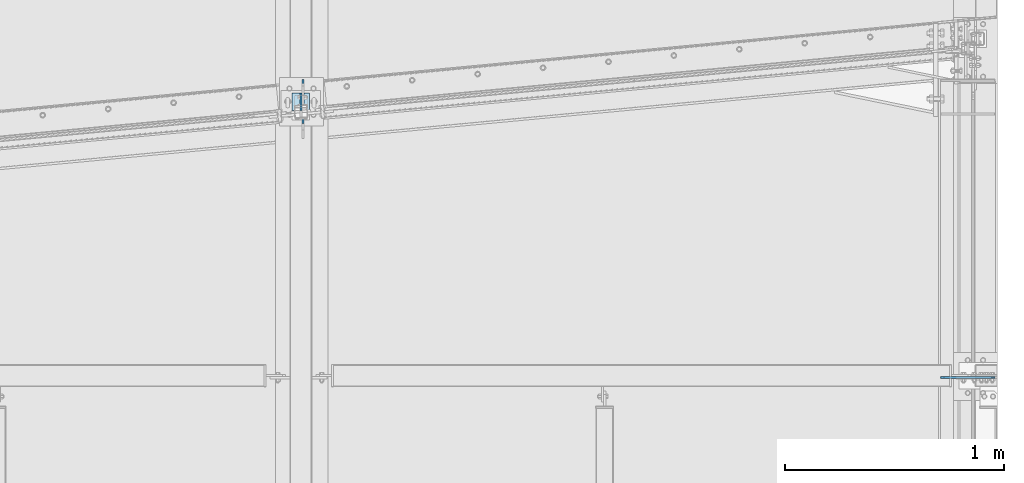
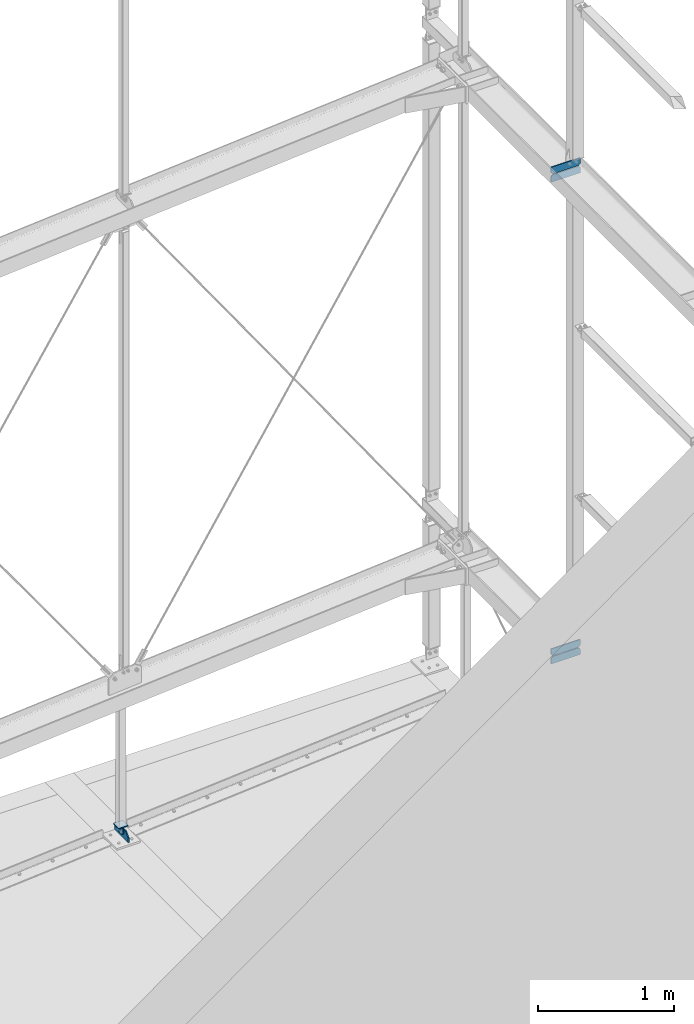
# One storey, part 178 of 271: 7 plates, 4 elements without a shape of their own.
"""IFC2X3 building model written with IfcOpenShell, lengths in millimetres."""

from ifc_helpers import new_model, si_unit, frame, origin_with_axes, place, context, subcontext, project, spatial, polyline, outline, extrude, material, type_object, element, aggregate, save


model = new_model("IFC2X3")

# Units and contexts
model_context = context("Model", 3, precision=1e-05, world=origin_with_axes())
body_context = subcontext(model_context, "Body", "Model", "MODEL_VIEW")
ifc_project = project(units=[si_unit("LENGTHUNIT", "METRE", prefix="MILLI"), si_unit("AREAUNIT", "SQUARE_METRE"), si_unit("VOLUMEUNIT", "CUBIC_METRE"), si_unit("MASSUNIT", "GRAM", prefix="KILO"), si_unit("TIMEUNIT", "SECOND"), si_unit("PLANEANGLEUNIT", "RADIAN"), si_unit("SOLIDANGLEUNIT", "STERADIAN"), si_unit("THERMODYNAMICTEMPERATUREUNIT", "DEGREE_CELSIUS"), si_unit("LUMINOUSINTENSITYUNIT", "LUMEN")], contexts=[model_context])

# Site, building, storey
site_placement = place(None, origin_with_axes())
site = spatial("IfcSite", under=ifc_project, at=site_placement, Name="Undefined", CompositionType="ELEMENT")
building_placement = place(site_placement, origin_with_axes())
building = spatial("IfcBuilding", under=site, at=building_placement, Name="Undefined", CompositionType="ELEMENT")
storey_placement = place(building_placement, origin_with_axes())
storey = spatial("IfcBuildingStorey", under=building, at=storey_placement, Name="Undefined", CompositionType="ELEMENT", Elevation=0.0)

# Assembly, plates
assembly_1_placement = place(storey_placement, origin_with_axes())
assembly_1 = element("IfcElementAssembly", 1, at=assembly_1_placement, inside=storey, AssemblyPlace="NOTDEFINED", PredefinedType="RIGID_FRAME")
ifc_material = material(Name="STEEL/S355JR")
plate_type_1 = type_object("IfcPlateType", Name="BL10*70", PredefinedType="NOTDEFINED")
plate_1_placement = place(assembly_1_placement, frame((9528.37568709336, 4090.32498425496, 54.6500000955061), z_axis=(-1.0, 0.0, 1.38777878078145e-17), x_axis=(0.0, -0.707106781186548, -0.707106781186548)))
plate_1 = element("IfcPlate", 2, at=plate_1_placement, type_object=plate_type_1, material=ifc_material, Name="BLACHA", ObjectType="BL10*70", context=body_context, shape_type="SweptSolid", body=[
    extrude(outline(polyline([(0.0, 0.0), (21.2132034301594, 1.09139364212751e-11), (56.5685424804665, 35.3553390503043), (56.568542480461, 56.5685424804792), (17.6776695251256, 95.4594192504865), (-38.890872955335, 38.8908729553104), (0.0, 0.0)])), frame((0.0, 0.0, -5.0), z_axis=(0.0, 0.0, 1.0), x_axis=(1.0, 0.0, 0.0)), (0.0, 0.0, 1.0), 10.0),
])
plate_type_2 = type_object("IfcPlateType", Name="BL8*80", PredefinedType="NOTDEFINED")
plate_2_placement = place(assembly_1_placement, frame((9568.37568709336, 4090.32498425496, 113.650000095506), z_axis=(0.0, 0.0, -1.0), x_axis=(0.0, -1.0, 0.0)))
plate_2 = element("IfcPlate", 3, at=plate_2_placement, type_object=plate_type_2, material=ifc_material, Name="BLACHA", ObjectType="BL8*80", context=body_context, shape_type="SweptSolid", body=[
    extrude(outline(polyline([(0.0, 0.0), (80.0, 0.0), (80.0, 80.0), (0.0, 80.0), (0.0, 0.0)])), frame((0.0, 0.0, -4.0), z_axis=(0.0, 0.0, 1.0), x_axis=(1.0, 0.0, 0.0)), (0.0, 0.0, 1.0), 8.0),
])
aggregate(assembly_1, [plate_2, plate_1])

# Assembly, plate
assembly_2_placement = place(storey_placement, origin_with_axes())
assembly_2 = element("IfcElementAssembly", 4, at=assembly_2_placement, inside=storey, AssemblyPlace="NOTDEFINED", PredefinedType="RIGID_FRAME")
plate_type_3 = type_object("IfcPlateType", Name="BL10*80", PredefinedType="NOTDEFINED")
plate_3_placement = place(assembly_2_placement, frame((9538.37568709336, 4150.32498425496, 9.65000009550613), z_axis=(-1.0, 0.0, 1.38777878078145e-17), x_axis=(0.0, -1.0, 0.0)))
plate_3 = element("IfcPlate", 5, at=plate_3_placement, type_object=plate_type_3, material=ifc_material, Name="BLACHA", ObjectType="BL10*80", context=body_context, shape_type="SweptSolid", body=[
    extrude(outline(polyline([(0.0, 0.0), (200.0, 0.0), (200.0, 40.0), (160.0, 80.0), (40.0, 80.0), (0.0, 40.0), (0.0, 0.0)])), frame((0.0, 0.0, -5.0), z_axis=(0.0, 0.0, 1.0), x_axis=(1.0, 0.0, 0.0)), (0.0, 0.0, 1.0), 10.0),
])
aggregate(assembly_2, [plate_3])

# Assembly, plates
assembly_3_placement = place(storey_placement, origin_with_axes())
assembly_3 = element("IfcElementAssembly", 6, at=assembly_3_placement, inside=storey, AssemblyPlace="NOTDEFINED", PredefinedType="RIGID_FRAME")
plate_type_4 = type_object("IfcPlateType", Name="BL8*64", PredefinedType="NOTDEFINED")
plate_4_placement = place(assembly_3_placement, frame((12449.5756869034, 2791.05211980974, 1296.84999990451), z_axis=(0.0, 1.0, 0.0), x_axis=(0.0, 0.0, 1.0)))
plate_4 = element("IfcPlate", 7, at=plate_4_placement, type_object=plate_type_4, material=ifc_material, Name="BLACHA", ObjectType="BL8*64", context=body_context, shape_type="SweptSolid", body=[
    extrude(outline(polyline([(0.0, 0.0), (49.1999969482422, 0.0), (64.1999969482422, 15.0), (64.1999969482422, 232.600006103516), (49.1999969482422, 247.600006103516), (0.0, 247.600006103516), (0.0, 0.0)])), frame((0.0, 0.0, -4.0), z_axis=(0.0, 0.0, 1.0), x_axis=(1.0, 0.0, 0.0)), (0.0, 0.0, 1.0), 8.0),
])
plate_5_placement = place(assembly_3_placement, frame((12449.5756869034, 2791.05211980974, 1367.64999985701), z_axis=(0.0, 1.0, 0.0), x_axis=(0.0, 0.0, 1.0)))
plate_5 = element("IfcPlate", 8, at=plate_5_placement, type_object=plate_type_4, material=ifc_material, Name="BLACHA", ObjectType="BL8*64", context=body_context, shape_type="SweptSolid", body=[
    extrude(outline(polyline([(0.0, 15.0), (15.0, -1.59872115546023e-14), (64.1999969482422, -1.77635683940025e-14), (64.1999969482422, 247.600006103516), (15.0, 247.600006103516), (0.0, 232.600006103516), (0.0, 15.0)])), frame((0.0, 0.0, -4.0), z_axis=(0.0, 0.0, 1.0), x_axis=(1.0, 0.0, 0.0)), (0.0, 0.0, 1.0), 8.0),
])
aggregate(assembly_3, [plate_4, plate_5])

assembly_4_placement = place(storey_placement, origin_with_axes())
assembly_4 = element("IfcElementAssembly", 9, at=assembly_4_placement, inside=storey, AssemblyPlace="NOTDEFINED", PredefinedType="RIGID_FRAME")
plate_6_placement = place(assembly_4_placement, frame((12449.5756869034, 2791.05211980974, 5616.84999990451), z_axis=(0.0, 1.0, 0.0), x_axis=(0.0, 0.0, 1.0)))
plate_6 = element("IfcPlate", 10, at=plate_6_placement, type_object=plate_type_4, material=ifc_material, Name="BLACHA", ObjectType="BL8*64", context=body_context, shape_type="SweptSolid", body=[
    extrude(outline(polyline([(0.0, 0.0), (49.1999969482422, 0.0), (64.1999969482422, 15.0), (64.1999969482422, 232.600006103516), (49.1999969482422, 247.600006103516), (0.0, 247.600006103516), (0.0, 0.0)])), frame((0.0, 0.0, -4.0), z_axis=(0.0, 0.0, 1.0), x_axis=(1.0, 0.0, 0.0)), (0.0, 0.0, 1.0), 8.0),
])
plate_7_placement = place(assembly_4_placement, frame((12449.5756869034, 2791.05211980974, 5687.64999985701), z_axis=(0.0, 1.0, 0.0), x_axis=(0.0, 0.0, 1.0)))
plate_7 = element("IfcPlate", 11, at=plate_7_placement, type_object=plate_type_4, material=ifc_material, Name="BLACHA", ObjectType="BL8*64", context=body_context, shape_type="SweptSolid", body=[
    extrude(outline(polyline([(0.0, 15.0), (15.0, -1.59872115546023e-14), (64.1999969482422, -1.77635683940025e-14), (64.1999969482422, 247.600006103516), (15.0, 247.600006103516), (0.0, 232.600006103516), (0.0, 15.0)])), frame((0.0, 0.0, -4.0), z_axis=(0.0, 0.0, 1.0), x_axis=(1.0, 0.0, 0.0)), (0.0, 0.0, 1.0), 8.0),
])
aggregate(assembly_4, [plate_6, plate_7])

save(model, "model.ifc")
